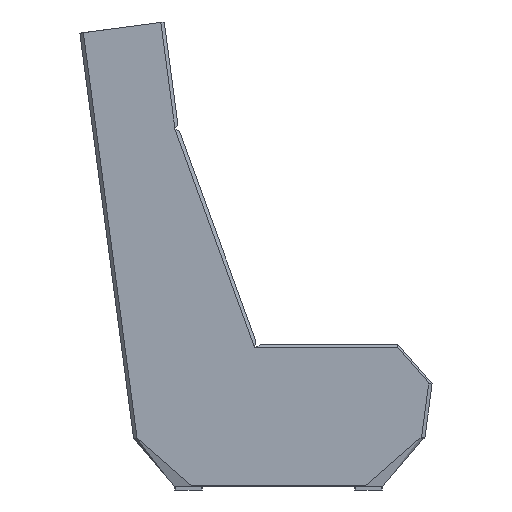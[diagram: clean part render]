
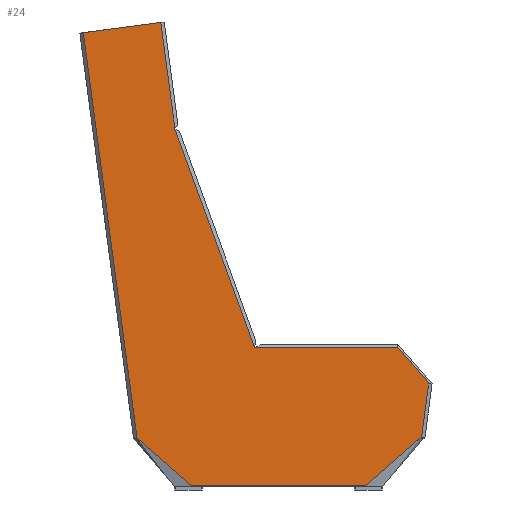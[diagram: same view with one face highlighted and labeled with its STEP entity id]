
A CAD part, left-side view. The second image highlights one B-rep face of the part: STEP entity #24.
In plain terms, the highlighted planar face has unit normal (-1, 0, 0).
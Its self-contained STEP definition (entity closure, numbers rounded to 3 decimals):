
#24=ADVANCED_FACE('',(#111),#1210,.T.);
#111=FACE_OUTER_BOUND('',#198,.T.);
#198=EDGE_LOOP('',(#292,#293,#294,#295,#296,#297,#298,#299,#300,#301,#302));
#292=ORIENTED_EDGE('',*,*,#675,.F.);
#293=ORIENTED_EDGE('',*,*,#676,.F.);
#294=ORIENTED_EDGE('',*,*,#681,.F.);
#295=ORIENTED_EDGE('',*,*,#680,.F.);
#296=ORIENTED_EDGE('',*,*,#677,.F.);
#297=ORIENTED_EDGE('',*,*,#690,.F.);
#298=ORIENTED_EDGE('',*,*,#696,.F.);
#299=ORIENTED_EDGE('',*,*,#706,.F.);
#300=ORIENTED_EDGE('',*,*,#679,.F.);
#301=ORIENTED_EDGE('',*,*,#678,.F.);
#302=ORIENTED_EDGE('',*,*,#674,.F.);
#674=EDGE_CURVE('',#1023,#1048,#867,.T.);
#675=EDGE_CURVE('',#1024,#1023,#868,.T.);
#676=EDGE_CURVE('',#1025,#1024,#869,.T.);
#677=EDGE_CURVE('',#1026,#1041,#870,.T.);
#678=EDGE_CURVE('',#1048,#1047,#871,.T.);
#679=EDGE_CURVE('',#1047,#1045,#872,.T.);
#680=EDGE_CURVE('',#1041,#1050,#873,.T.);
#681=EDGE_CURVE('',#1050,#1025,#874,.T.);
#690=EDGE_CURVE('',#1027,#1026,#877,.T.);
#696=EDGE_CURVE('',#1039,#1027,#879,.T.);
#706=EDGE_CURVE('',#1045,#1039,#884,.T.);
#867=(
BOUNDED_CURVE()
B_SPLINE_CURVE(2,(#2471,#2472,#2473),.UNSPECIFIED.,.F.,.F.)
B_SPLINE_CURVE_WITH_KNOTS((3,3),(3462.42,3966.545),
 .UNSPECIFIED.)
CURVE()
GEOMETRIC_REPRESENTATION_ITEM()
RATIONAL_B_SPLINE_CURVE((1.,1.,1.))
REPRESENTATION_ITEM('')
);
#868=(
BOUNDED_CURVE()
B_SPLINE_CURVE(2,(#2474,#2475,#2476),.UNSPECIFIED.,.F.,.F.)
B_SPLINE_CURVE_WITH_KNOTS((3,3),(6430.074,6671.83),
 .UNSPECIFIED.)
CURVE()
GEOMETRIC_REPRESENTATION_ITEM()
RATIONAL_B_SPLINE_CURVE((1.,0.752,1.))
REPRESENTATION_ITEM('')
);
#869=(
BOUNDED_CURVE()
B_SPLINE_CURVE(2,(#2477,#2478,#2479),.UNSPECIFIED.,.F.,.F.)
B_SPLINE_CURVE_WITH_KNOTS((3,3),(6423.469,6430.074),
 .UNSPECIFIED.)
CURVE()
GEOMETRIC_REPRESENTATION_ITEM()
RATIONAL_B_SPLINE_CURVE((1.,1.,1.))
REPRESENTATION_ITEM('')
);
#870=(
BOUNDED_CURVE()
B_SPLINE_CURVE(2,(#2480,#2481,#2482),.UNSPECIFIED.,.F.,.F.)
B_SPLINE_CURVE_WITH_KNOTS((3,3),(6087.553,6094.554),
 .UNSPECIFIED.)
CURVE()
GEOMETRIC_REPRESENTATION_ITEM()
RATIONAL_B_SPLINE_CURVE((1.,1.,1.))
REPRESENTATION_ITEM('')
);
#871=(
BOUNDED_CURVE()
B_SPLINE_CURVE(2,(#2483,#2484,#2485),.UNSPECIFIED.,.F.,.F.)
B_SPLINE_CURVE_WITH_KNOTS((3,3),(3966.545,4208.301),
 .UNSPECIFIED.)
CURVE()
GEOMETRIC_REPRESENTATION_ITEM()
RATIONAL_B_SPLINE_CURVE((1.,0.752,1.))
REPRESENTATION_ITEM('')
);
#872=(
BOUNDED_CURVE()
B_SPLINE_CURVE(2,(#2486,#2487,#2488),.UNSPECIFIED.,.F.,.F.)
B_SPLINE_CURVE_WITH_KNOTS((3,3),(4208.301,5390.462),
 .UNSPECIFIED.)
CURVE()
GEOMETRIC_REPRESENTATION_ITEM()
RATIONAL_B_SPLINE_CURVE((1.,1.,1.))
REPRESENTATION_ITEM('')
);
#873=(
BOUNDED_CURVE()
B_SPLINE_CURVE(2,(#2489,#2490,#2491,#2492,#2493),.UNSPECIFIED.,.F.,.F.)
B_SPLINE_CURVE_WITH_KNOTS((3,2,3),(6094.554,6179.682,6264.811),
 .UNSPECIFIED.)
CURVE()
GEOMETRIC_REPRESENTATION_ITEM()
RATIONAL_B_SPLINE_CURVE((1.,0.911,1.,0.911,1.))
REPRESENTATION_ITEM('')
);
#874=(
BOUNDED_CURVE()
B_SPLINE_CURVE(2,(#2494,#2495,#2496),.UNSPECIFIED.,.F.,.F.)
B_SPLINE_CURVE_WITH_KNOTS((3,3),(6264.811,6423.469),
 .UNSPECIFIED.)
CURVE()
GEOMETRIC_REPRESENTATION_ITEM()
RATIONAL_B_SPLINE_CURVE((1.,1.,1.))
REPRESENTATION_ITEM('')
);
#877=(
BOUNDED_CURVE()
B_SPLINE_CURVE(1,(#2543,#2544),.UNSPECIFIED.,.F.,.F.)
B_SPLINE_CURVE_WITH_KNOTS((2,2),(-665.458,7.001),
 .UNSPECIFIED.)
CURVE()
GEOMETRIC_REPRESENTATION_ITEM()
RATIONAL_B_SPLINE_CURVE((1.,1.))
REPRESENTATION_ITEM('')
);
#879=(
BOUNDED_CURVE()
B_SPLINE_CURVE(1,(#2612,#2613),.UNSPECIFIED.,.F.,.F.)
B_SPLINE_CURVE_WITH_KNOTS((2,2),(-309.584,1.092),
 .UNSPECIFIED.)
CURVE()
GEOMETRIC_REPRESENTATION_ITEM()
RATIONAL_B_SPLINE_CURVE((1.,1.))
REPRESENTATION_ITEM('')
);
#884=(
BOUNDED_CURVE()
B_SPLINE_CURVE(3,(#2677,#2678,#2679,#2680,#2681,#2682,#2683,#2684,#2685,
#2686,#2687,#2688,#2689,#2690,#2691),.UNSPECIFIED.,.F.,.F.)
B_SPLINE_CURVE_WITH_KNOTS((4,1,1,1,1,1,1,1,1,1,1,1,4),(-354.993,
-327.316,-299.64,-282.942,-266.245,
-232.85,-205.173,-177.497,-149.82,
-122.143,-88.748,-55.353,0.),
 .UNSPECIFIED.)
CURVE()
GEOMETRIC_REPRESENTATION_ITEM()
RATIONAL_B_SPLINE_CURVE((1.,1.,1.,1.,1.,1.,1.,1.,1.,1.,
1.,1.,1.,1.,1.))
REPRESENTATION_ITEM('')
);
#1023=VERTEX_POINT('',#2343);
#1024=VERTEX_POINT('',#2344);
#1025=VERTEX_POINT('',#2345);
#1026=VERTEX_POINT('',#2346);
#1027=VERTEX_POINT('',#2347);
#1039=VERTEX_POINT('',#2359);
#1041=VERTEX_POINT('',#2361);
#1045=VERTEX_POINT('',#2365);
#1047=VERTEX_POINT('',#2367);
#1048=VERTEX_POINT('',#2368);
#1050=VERTEX_POINT('',#2370);
#1210=PLANE('',#1354);
#1354=AXIS2_PLACEMENT_3D('',#1401,#1375,$);
#1375=DIRECTION('',(-1.,0.,0.));
#1401=CARTESIAN_POINT('',(-375.,-449.433,-2.509));
#2343=CARTESIAN_POINT('',(-375.,-252.063,12.));
#2344=CARTESIAN_POINT('',(-375.,-408.693,149.24));
#2345=CARTESIAN_POINT('',(-375.,-413.044,151.892));
#2346=CARTESIAN_POINT('',(-375.,69.053,411.));
#2347=CARTESIAN_POINT('',(-375.,299.157,1042.865));
#2359=CARTESIAN_POINT('',(-375.,339.977,1350.847));
#2361=CARTESIAN_POINT('',(-375.,-344.671,411.));
#2365=CARTESIAN_POINT('',(-375.,564.017,1321.153));
#2367=CARTESIAN_POINT('',(-375.,408.693,149.24));
#2368=CARTESIAN_POINT('',(-375.,252.062,12.));
#2370=CARTESIAN_POINT('',(-375.,-433.891,309.175));
#2471=CARTESIAN_POINT('',(-375.,-252.063,12.));
#2472=CARTESIAN_POINT('',(-375.,0.,12.));
#2473=CARTESIAN_POINT('',(-375.,252.062,12.));
#2474=CARTESIAN_POINT('',(-375.,-408.693,149.24));
#2475=CARTESIAN_POINT('',(-375.,-390.503,12.));
#2476=CARTESIAN_POINT('',(-375.,-252.063,12.));
#2477=CARTESIAN_POINT('',(-375.,-413.044,151.892));
#2478=CARTESIAN_POINT('',(-375.,-413.044,149.05));
#2479=CARTESIAN_POINT('',(-375.,-408.693,149.24));
#2480=CARTESIAN_POINT('',(-375.,69.053,411.));
#2481=CARTESIAN_POINT('',(-375.,-137.809,411.));
#2482=CARTESIAN_POINT('',(-375.,-344.671,411.));
#2483=CARTESIAN_POINT('',(-375.,252.062,12.));
#2484=CARTESIAN_POINT('',(-375.,390.503,12.));
#2485=CARTESIAN_POINT('',(-375.,408.693,149.24));
#2486=CARTESIAN_POINT('',(-375.,408.693,149.24));
#2487=CARTESIAN_POINT('',(-375.,486.355,735.197));
#2488=CARTESIAN_POINT('',(-375.,564.017,1321.153));
#2489=CARTESIAN_POINT('',(-375.,-344.671,411.));
#2490=CARTESIAN_POINT('',(-375.,-385.473,411.));
#2491=CARTESIAN_POINT('',(-375.,-412.362,380.312));
#2492=CARTESIAN_POINT('',(-375.,-439.252,349.623));
#2493=CARTESIAN_POINT('',(-375.,-433.891,309.175));
#2494=CARTESIAN_POINT('',(-375.,-433.891,309.175));
#2495=CARTESIAN_POINT('',(-375.,-423.467,230.533));
#2496=CARTESIAN_POINT('',(-375.,-413.044,151.892));
#2543=CARTESIAN_POINT('',(-375.,299.157,1042.865));
#2544=CARTESIAN_POINT('',(-375.,69.053,411.));
#2612=CARTESIAN_POINT('',(-375.,339.977,1350.847));
#2613=CARTESIAN_POINT('',(-375.,299.157,1042.865));
#2677=CARTESIAN_POINT('',(-375.,564.017,1321.153));
#2678=CARTESIAN_POINT('',(-375.,565.231,1330.299));
#2679=CARTESIAN_POINT('',(-375.,565.402,1348.887));
#2680=CARTESIAN_POINT('',(-375.,559.755,1372.419));
#2681=CARTESIAN_POINT('',(-375.,551.203,1390.953));
#2682=CARTESIAN_POINT('',(-375.,538.98,1409.635));
#2683=CARTESIAN_POINT('',(-375.,520.153,1427.867));
#2684=CARTESIAN_POINT('',(-375.,493.984,1442.132));
#2685=CARTESIAN_POINT('',(-375.,466.992,1449.149));
#2686=CARTESIAN_POINT('',(-375.,439.112,1449.402));
#2687=CARTESIAN_POINT('',(-375.,410.12,1442.455));
#2688=CARTESIAN_POINT('',(-375.,382.283,1427.018));
#2689=CARTESIAN_POINT('',(-375.,353.626,1397.471));
#2690=CARTESIAN_POINT('',(-375.,342.37,1369.145));
#2691=CARTESIAN_POINT('',(-375.,339.977,1350.847));
